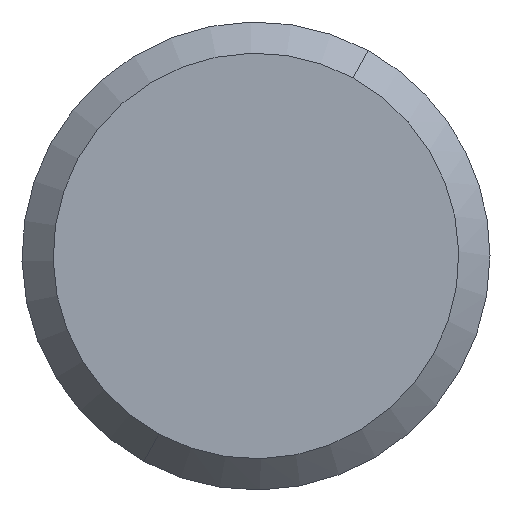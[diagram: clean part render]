
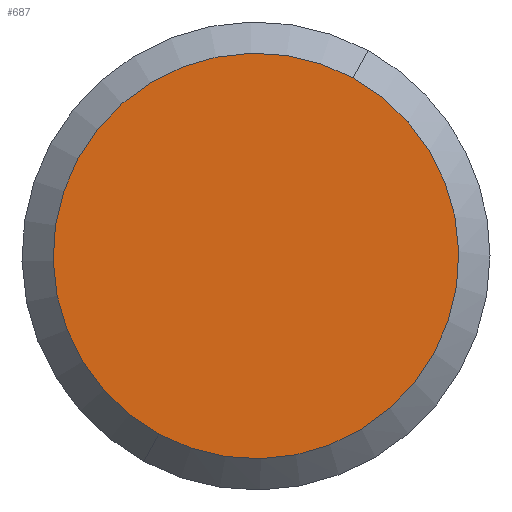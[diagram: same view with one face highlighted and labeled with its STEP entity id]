
A CAD part, front view. The second image highlights one B-rep face of the part: STEP entity #687.
In plain terms, the highlighted planar face has unit normal (0, -1, 0).
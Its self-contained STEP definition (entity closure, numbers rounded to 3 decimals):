
#62 = DIRECTION ( 'NONE',  ( 1., 0., 0. ) ) ;
#118 = PLANE ( 'NONE',  #728 ) ;
#236 = ORIENTED_EDGE ( 'NONE', *, *, #615, .F. ) ;
#249 = CIRCLE ( 'NONE', #707, 5.2 ) ;
#255 = CARTESIAN_POINT ( 'NONE',  ( 0., -148.06, 6. ) ) ;
#257 = DIRECTION ( 'NONE',  ( 0., 1., 0. ) ) ;
#337 = DIRECTION ( 'NONE',  ( 1., 0., 0. ) ) ;
#451 = AXIS2_PLACEMENT_3D ( 'NONE', #700, #646, #62 ) ;
#477 = DIRECTION ( 'NONE',  ( 0., 1., 0. ) ) ;
#522 = EDGE_LOOP ( 'NONE', ( #236, #533 ) ) ;
#533 = ORIENTED_EDGE ( 'NONE', *, *, #752, .F. ) ;
#614 = DIRECTION ( 'NONE',  ( 1., 0., 0. ) ) ;
#615 = EDGE_CURVE ( 'NONE', #741, #748, #249, .T. ) ;
#646 = DIRECTION ( 'NONE',  ( 0., 1., 0. ) ) ;
#687 = ADVANCED_FACE ( 'NONE', ( #820 ), #118, .F. ) ;
#700 = CARTESIAN_POINT ( 'NONE',  ( 0., -148.06, 0. ) ) ;
#707 = AXIS2_PLACEMENT_3D ( 'NONE', #759, #477, #337 ) ;
#708 = CARTESIAN_POINT ( 'NONE',  ( 2.493, -148.06, 4.563 ) ) ;
#728 = AXIS2_PLACEMENT_3D ( 'NONE', #255, #257, #614 ) ;
#741 = VERTEX_POINT ( 'NONE', #708 ) ;
#748 = VERTEX_POINT ( 'NONE', #918 ) ;
#752 = EDGE_CURVE ( 'NONE', #748, #741, #897, .T. ) ;
#759 = CARTESIAN_POINT ( 'NONE',  ( 0., -148.06, 0. ) ) ;
#820 = FACE_OUTER_BOUND ( 'NONE', #522, .T. ) ;
#897 = CIRCLE ( 'NONE', #451, 5.2 ) ;
#918 = CARTESIAN_POINT ( 'NONE',  ( -2.493, -148.06, -4.563 ) ) ;
